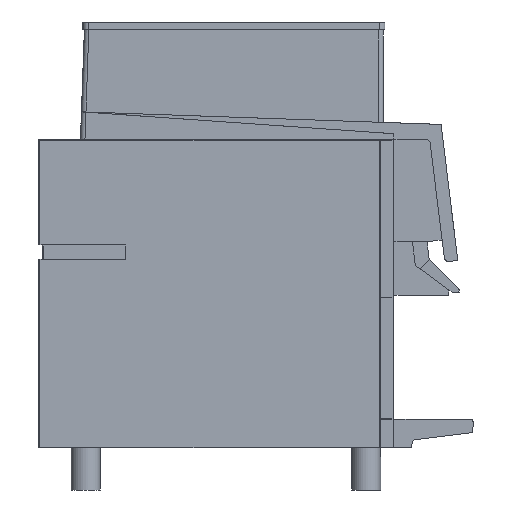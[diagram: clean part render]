
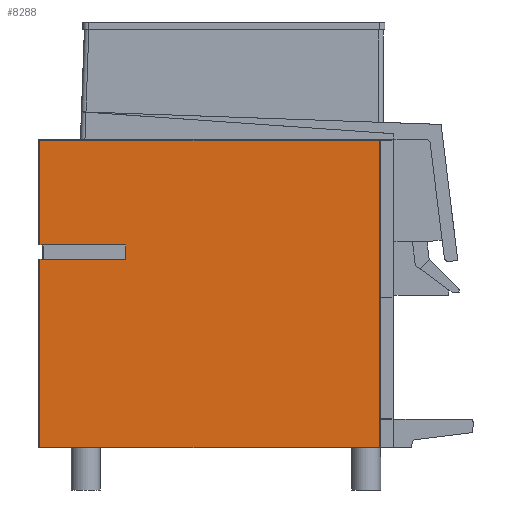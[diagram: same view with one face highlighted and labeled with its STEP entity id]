
A CAD part, left-side view. The second image highlights one B-rep face of the part: STEP entity #8288.
In plain terms, the highlighted planar face has unit normal (-1, 0, 0).
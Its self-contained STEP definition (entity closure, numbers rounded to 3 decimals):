
#432=LINE('',#11127,#1115);
#642=LINE('',#11664,#1325);
#643=LINE('',#11666,#1326);
#644=LINE('',#11668,#1327);
#645=LINE('',#11670,#1328);
#646=LINE('',#11672,#1329);
#647=LINE('',#11674,#1330);
#648=LINE('',#11676,#1331);
#649=LINE('',#11678,#1332);
#650=LINE('',#11680,#1333);
#1115=VECTOR('',#9310,1000.);
#1325=VECTOR('',#9738,1000.);
#1326=VECTOR('',#9739,1000.);
#1327=VECTOR('',#9740,1000.);
#1328=VECTOR('',#9741,1000.);
#1329=VECTOR('',#9742,1000.);
#1330=VECTOR('',#9743,1000.);
#1331=VECTOR('',#9744,1000.);
#1332=VECTOR('',#9745,1000.);
#1333=VECTOR('',#9746,1000.);
#2187=ORIENTED_EDGE('',*,*,#3605,.F.);
#2188=ORIENTED_EDGE('',*,*,#3879,.T.);
#2189=ORIENTED_EDGE('',*,*,#3880,.T.);
#2190=ORIENTED_EDGE('',*,*,#3881,.T.);
#2191=ORIENTED_EDGE('',*,*,#3882,.F.);
#2192=ORIENTED_EDGE('',*,*,#3883,.F.);
#2193=ORIENTED_EDGE('',*,*,#3884,.F.);
#2194=ORIENTED_EDGE('',*,*,#3885,.T.);
#2195=ORIENTED_EDGE('',*,*,#3886,.T.);
#2196=ORIENTED_EDGE('',*,*,#3887,.T.);
#3605=EDGE_CURVE('',#4475,#4476,#432,.T.);
#3879=EDGE_CURVE('',#4475,#4694,#642,.T.);
#3880=EDGE_CURVE('',#4694,#4695,#643,.F.);
#3881=EDGE_CURVE('',#4695,#4696,#644,.F.);
#3882=EDGE_CURVE('',#4697,#4696,#645,.T.);
#3883=EDGE_CURVE('',#4698,#4697,#646,.T.);
#3884=EDGE_CURVE('',#4699,#4698,#647,.T.);
#3885=EDGE_CURVE('',#4699,#4700,#648,.T.);
#3886=EDGE_CURVE('',#4700,#4701,#649,.T.);
#3887=EDGE_CURVE('',#4701,#4476,#650,.F.);
#4475=VERTEX_POINT('',#11126);
#4476=VERTEX_POINT('',#11128);
#4694=VERTEX_POINT('',#11665);
#4695=VERTEX_POINT('',#11667);
#4696=VERTEX_POINT('',#11669);
#4697=VERTEX_POINT('',#11671);
#4698=VERTEX_POINT('',#11673);
#4699=VERTEX_POINT('',#11675);
#4700=VERTEX_POINT('',#11677);
#4701=VERTEX_POINT('',#11679);
#5037=EDGE_LOOP('',(#2187,#2188,#2189,#2190,#2191,#2192,#2193,#2194,#2195,
#2196));
#5395=FACE_BOUND('',#5037,.T.);
#5729=PLANE('',#8726);
#8288=ADVANCED_FACE('',(#5395),#5729,.F.);
#8726=AXIS2_PLACEMENT_3D('',#11663,#9736,#9737);
#9310=DIRECTION('',(0.,1.,0.));
#9736=DIRECTION('',(1.,0.,0.));
#9737=DIRECTION('',(0.,1.,0.));
#9738=DIRECTION('',(0.,0.,1.));
#9739=DIRECTION('',(0.,-1.,0.));
#9740=DIRECTION('',(0.,0.,1.));
#9741=DIRECTION('',(0.,1.,0.));
#9742=DIRECTION('',(0.,1.,0.));
#9743=DIRECTION('',(0.,0.,1.));
#9744=DIRECTION('',(0.,1.,0.));
#9745=DIRECTION('',(0.,1.,0.));
#9746=DIRECTION('',(0.,0.,1.));
#11126=CARTESIAN_POINT('',(-160.,-470.,0.));
#11127=CARTESIAN_POINT('',(-160.,-490.,0.));
#11128=CARTESIAN_POINT('',(-160.,-1.2,0.));
#11663=CARTESIAN_POINT('',(-160.,0.,0.));
#11664=CARTESIAN_POINT('',(-160.,-470.,420.5));
#11665=CARTESIAN_POINT('',(-160.,-470.,424.8));
#11666=CARTESIAN_POINT('',(-160.,0.,424.8));
#11667=CARTESIAN_POINT('',(-160.,-1.2,424.8));
#11668=CARTESIAN_POINT('',(-160.,-1.2,0.));
#11669=CARTESIAN_POINT('',(-160.,-1.2,280.));
#11670=CARTESIAN_POINT('',(-160.,-5.,280.));
#11671=CARTESIAN_POINT('',(-160.,-5.133,280.));
#11672=CARTESIAN_POINT('',(-160.,-120.,280.));
#11673=CARTESIAN_POINT('',(-160.,-120.,280.));
#11674=CARTESIAN_POINT('',(-160.,-120.,260.));
#11675=CARTESIAN_POINT('',(-160.,-120.,260.));
#11676=CARTESIAN_POINT('',(-160.,-120.,260.));
#11677=CARTESIAN_POINT('',(-160.,-5.133,260.));
#11678=CARTESIAN_POINT('',(-160.,-5.,260.));
#11679=CARTESIAN_POINT('',(-160.,-1.2,260.));
#11680=CARTESIAN_POINT('',(-160.,-1.2,0.));
